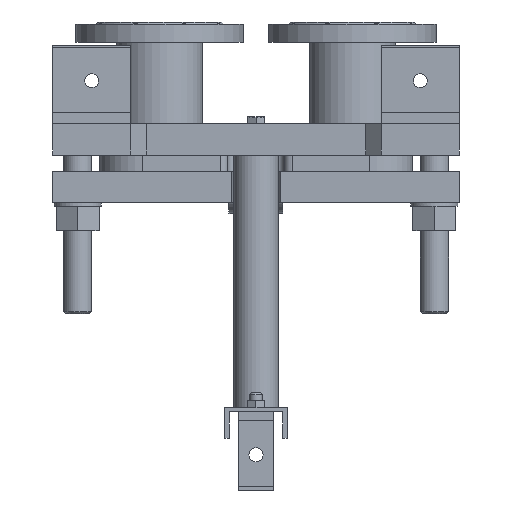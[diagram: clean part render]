
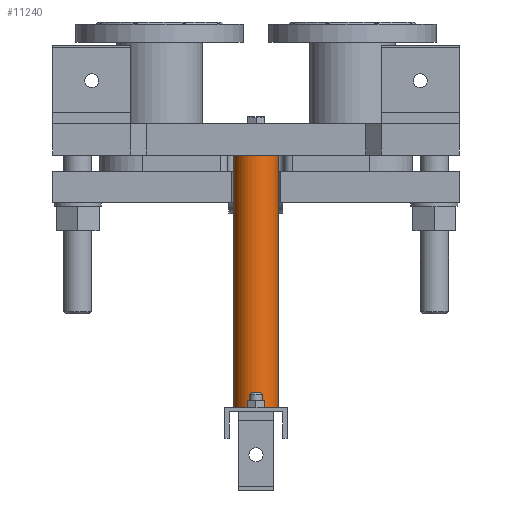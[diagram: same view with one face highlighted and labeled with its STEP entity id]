
A CAD part, front view. The second image highlights one B-rep face of the part: STEP entity #11240.
In plain terms, the highlighted cylindrical face has radius 28.5 mm (diameter 57 mm), a full revolution.
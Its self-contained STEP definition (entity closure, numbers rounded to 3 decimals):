
#781=LINE('',#22043,#1754);
#1754=VECTOR('',#14569,28.5);
#2333=CYLINDRICAL_SURFACE('',#12263,28.5);
#2995=FACE_OUTER_BOUND('',#3777,.T.);
#3777=EDGE_LOOP('',(#9013,#9014,#9015,#9016));
#4462=CIRCLE('',#12264,28.5);
#4463=CIRCLE('',#12265,28.5);
#5286=VERTEX_POINT('',#22040);
#5287=VERTEX_POINT('',#22042);
#6596=EDGE_CURVE('',#5286,#5286,#4462,.T.);
#6597=EDGE_CURVE('',#5286,#5287,#781,.T.);
#6598=EDGE_CURVE('',#5287,#5287,#4463,.T.);
#9013=ORIENTED_EDGE('',*,*,#6596,.F.);
#9014=ORIENTED_EDGE('',*,*,#6597,.T.);
#9015=ORIENTED_EDGE('',*,*,#6598,.T.);
#9016=ORIENTED_EDGE('',*,*,#6597,.F.);
#11240=ADVANCED_FACE('',(#2995),#2333,.T.);
#12263=AXIS2_PLACEMENT_3D('',#22039,#14565,#14566);
#12264=AXIS2_PLACEMENT_3D('',#22041,#14567,#14568);
#12265=AXIS2_PLACEMENT_3D('',#22044,#14570,#14571);
#14565=DIRECTION('center_axis',(0.,0.,
-1.));
#14566=DIRECTION('ref_axis',(-1.,0.,0.));
#14567=DIRECTION('center_axis',(0.,0.,
-1.));
#14568=DIRECTION('ref_axis',(-1.,0.,0.));
#14569=DIRECTION('',(0.,0.,1.));
#14570=DIRECTION('center_axis',(0.,0.,
-1.));
#14571=DIRECTION('ref_axis',(-1.,0.,0.));
#22039=CARTESIAN_POINT('Origin',(0.,215.,0.));
#22040=CARTESIAN_POINT('',(28.5,215.,-322.));
#22041=CARTESIAN_POINT('Origin',(0.,215.,-322.));
#22042=CARTESIAN_POINT('',(28.5,215.,0.));
#22043=CARTESIAN_POINT('',(28.5,215.,0.));
#22044=CARTESIAN_POINT('Origin',(0.,215.,0.));
